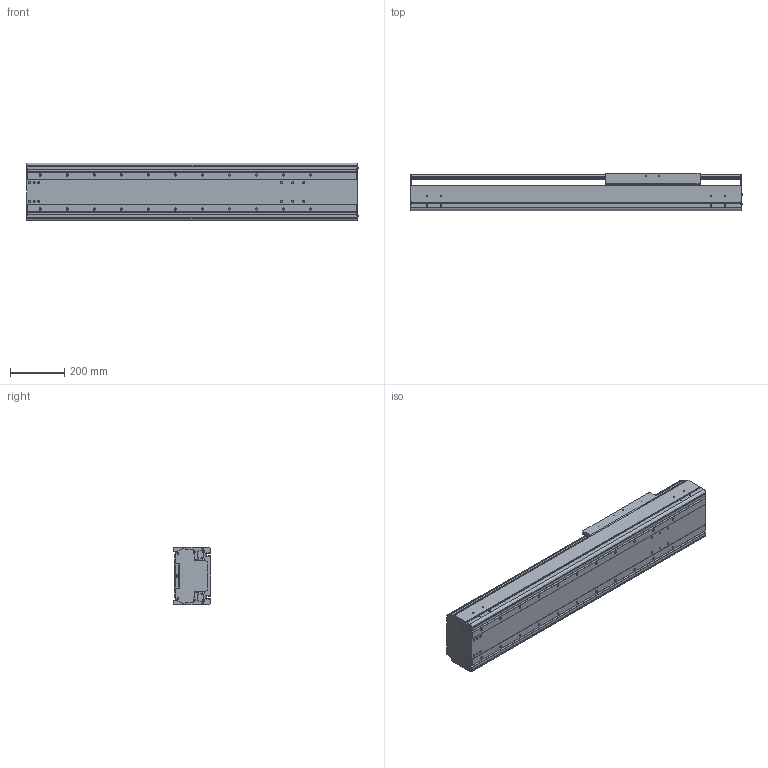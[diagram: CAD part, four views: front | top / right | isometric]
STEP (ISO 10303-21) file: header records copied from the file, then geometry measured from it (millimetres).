
FILE_DESCRIPTION((''),'2;1');
FILE_NAME('BE60J-ST-L_B-65_IGS_PRT','2017-06-18T',(' '),(''),'PRO/ENGINEER BY PARAMETRIC TECHNOLOGY CORPORATION, 2015030','PRO/ENGINEER BY PARAMETRIC TECHNOLOGY CORPORATION, 2015030','');
FILE_SCHEMA(('CONFIG_CONTROL_DESIGN'));
Length unit declared in the file: millimetre
Products named in the file (1): BE60J-ST-L_B-65_IGS_PRT
Bounding box: 1227.4 x 140 x 214 mm (x, y, z)
Volume: 10207126.2 mm3; surface area: 2683419.3 mm2
Topology: 2 solids, 32 shells, 1119 faces, 2974 edges, 1913 vertices
Faces by surface type: plane 523, cylinder 488, cone 60, torus 24, sphere 24
Entity records: 35149 total; most frequent: CARTESIAN_POINT 6622, DIRECTION 6106, ORIENTED_EDGE 5720, EDGE_CURVE 2916, AXIS2_PLACEMENT_3D 2188, VERTEX_POINT 1912, VECTOR 1730, LINE 1730
